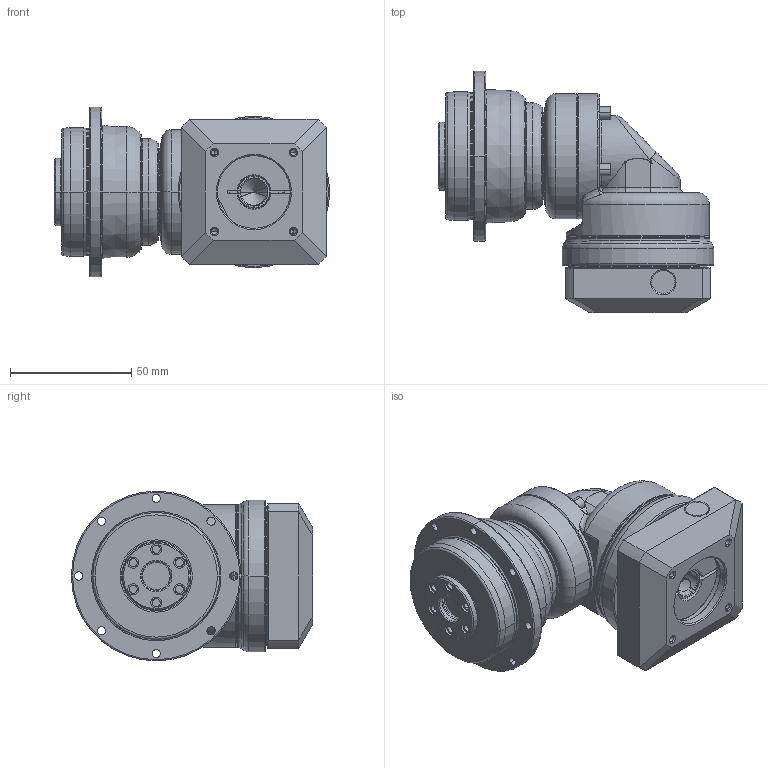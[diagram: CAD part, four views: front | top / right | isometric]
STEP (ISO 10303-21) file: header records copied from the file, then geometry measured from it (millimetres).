
FILE_DESCRIPTION((''),'2;1');
FILE_NAME('PDR053_1ST_11-P0411200101_ASM','2016-06-04T',('d01943'),(''),'PRO/ENGINEER BY PARAMETRIC TECHNOLOGY CORPORATION, 2008410','PRO/ENGINEER BY PARAMETRIC TECHNOLOGY CORPORATION, 2008410','');
FILE_SCHEMA(('CONFIG_CONTROL_DESIGN'));
Length unit declared in the file: millimetre
Products named in the file (10): P1355100001; P0367100001; P0274100001; P1349100001; P1017100001; P1350100101; P0411200101; P0503200005; P0713100101; PDR053_1ST_11-P0411200101_ASM
Assembly tree (9 placements, depth 2):
  PDR053_1ST_11-P0411200101_ASM
    P1355100001
    P0367100001
    P0274100001
    P1349100001
    P1017100001
    P1350100101
    P0411200101
    P0503200005
    P0713100101
Bounding box: 113.55 x 99.5 x 70 mm (x, y, z)
Volume: 261832.1 mm3; surface area: 72664.5 mm2
Topology: 9 solids, 9 shells, 516 faces, 1177 edges, 691 vertices
Faces by surface type: cylinder 170, cone 148, plane 85, torus 82, bspline 31
Entity records: 17186 total; most frequent: CARTESIAN_POINT 5441, DIRECTION 2590, ORIENTED_EDGE 2282, EDGE_CURVE 1141, AXIS2_PLACEMENT_3D 1106, VERTEX_POINT 691, EDGE_LOOP 604, CIRCLE 602
